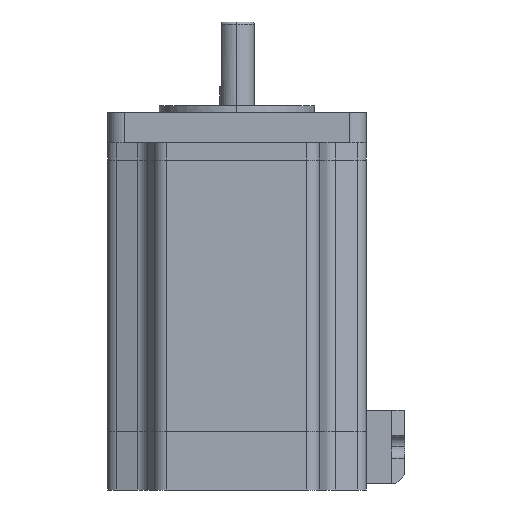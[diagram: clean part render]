
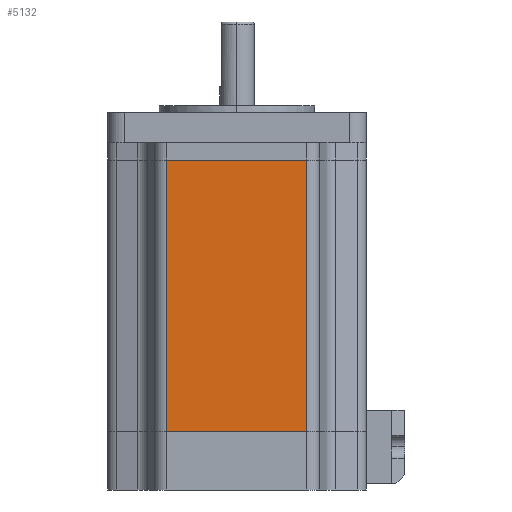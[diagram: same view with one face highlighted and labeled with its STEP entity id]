
A CAD part, left-side view. The second image highlights one B-rep face of the part: STEP entity #5132.
In plain terms, the highlighted planar face has unit normal (-1, 0, 0).
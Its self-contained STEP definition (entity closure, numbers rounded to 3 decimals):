
#477 = EDGE_CURVE ( 'NONE', #6370, #3287, #5782, .T. ) ;
#550 = VECTOR ( 'NONE', #642, 1000. ) ;
#599 = VERTEX_POINT ( 'NONE', #7456 ) ;
#642 = DIRECTION ( 'NONE',  ( 0., 1., 0. ) ) ;
#1099 = CARTESIAN_POINT ( 'NONE',  ( -29.965, -16.234, -63. ) ) ;
#1318 = DIRECTION ( 'NONE',  ( 0., 0., 1. ) ) ;
#1623 = AXIS2_PLACEMENT_3D ( 'NONE', #4563, #5270, #6989 ) ;
#1706 = VECTOR ( 'NONE', #2170, 1000. ) ;
#1950 = CARTESIAN_POINT ( 'NONE',  ( -29.965, -16.234, 0. ) ) ;
#2116 = PLANE ( 'NONE',  #1623 ) ;
#2170 = DIRECTION ( 'NONE',  ( 0., 0., 1. ) ) ;
#2174 = DIRECTION ( 'NONE',  ( 0., 1., 0. ) ) ;
#2829 = FACE_OUTER_BOUND ( 'NONE', #5581, .T. ) ;
#2930 = CARTESIAN_POINT ( 'NONE',  ( -29.965, -16.234, 0. ) ) ;
#3287 = VERTEX_POINT ( 'NONE', #5398 ) ;
#3329 = ORIENTED_EDGE ( 'NONE', *, *, #5427, .F. ) ;
#3449 = LINE ( 'NONE', #7682, #1706 ) ;
#3842 = EDGE_CURVE ( 'NONE', #7586, #3287, #5588, .T. ) ;
#4058 = LINE ( 'NONE', #1099, #7344 ) ;
#4458 = ORIENTED_EDGE ( 'NONE', *, *, #477, .F. ) ;
#4563 = CARTESIAN_POINT ( 'NONE',  ( -29.965, -16.234, -63. ) ) ;
#5055 = CARTESIAN_POINT ( 'NONE',  ( -29.965, 16.234, -63. ) ) ;
#5076 = CARTESIAN_POINT ( 'NONE',  ( -29.965, 16.234, -63. ) ) ;
#5132 = ADVANCED_FACE ( 'NONE', ( #2829 ), #2116, .F. ) ;
#5270 = DIRECTION ( 'NONE',  ( 1., 0., 0. ) ) ;
#5398 = CARTESIAN_POINT ( 'NONE',  ( -29.965, 16.234, 0. ) ) ;
#5427 = EDGE_CURVE ( 'NONE', #599, #6370, #4058, .T. ) ;
#5486 = VECTOR ( 'NONE', #1318, 1000. ) ;
#5581 = EDGE_LOOP ( 'NONE', ( #6642, #4458, #3329, #7159 ) ) ;
#5588 = LINE ( 'NONE', #1950, #550 ) ;
#5782 = LINE ( 'NONE', #5076, #5486 ) ;
#6370 = VERTEX_POINT ( 'NONE', #5055 ) ;
#6642 = ORIENTED_EDGE ( 'NONE', *, *, #3842, .T. ) ;
#6912 = EDGE_CURVE ( 'NONE', #599, #7586, #3449, .T. ) ;
#6989 = DIRECTION ( 'NONE',  ( 0., 1., 0. ) ) ;
#7159 = ORIENTED_EDGE ( 'NONE', *, *, #6912, .T. ) ;
#7344 = VECTOR ( 'NONE', #2174, 1000. ) ;
#7456 = CARTESIAN_POINT ( 'NONE',  ( -29.965, -16.234, -63. ) ) ;
#7586 = VERTEX_POINT ( 'NONE', #2930 ) ;
#7682 = CARTESIAN_POINT ( 'NONE',  ( -29.965, -16.234, -63. ) ) ;
